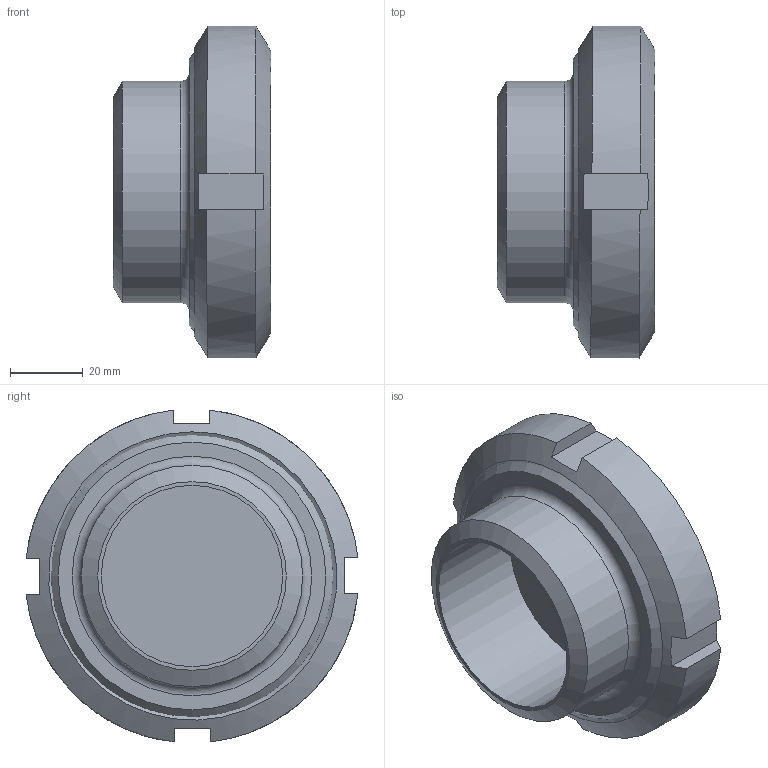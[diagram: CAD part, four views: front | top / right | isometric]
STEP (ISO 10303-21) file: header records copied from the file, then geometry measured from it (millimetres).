
FILE_DESCRIPTION(/* description */ ('Unknown'),/* implementation_level */ '2;1');
FILE_NAME(/* name */ 'MV 50',/* time_stamp */ '2016-01-18T15:21:00+01:00',/* author */ ('Unknown'),/* organization */ ('Unknown'),/* preprocessor_version */ 'ST-DEVELOPER v16.7',/* originating_system */ 'DEX',/* authorisation */ $);
FILE_SCHEMA (('CONFIG_CONTROL_DESIGN'));
Length unit declared in the file: millimetre
Products named in the file (6): 0207.005.38_01; 0863.230.38_01; 4019.022.38_01; 1775.182.38; 5684.027.38_01; 8412.020.38_01
Assembly tree (5 placements, depth 2):
  0207.005.38_01
    0863.230.38_01
    4019.022.38_01
    1775.182.38
    5684.027.38_01
    8412.020.38_01
Bounding box: 43.5 x 91.47 x 91.47 mm (x, y, z)
Volume: 123380.2 mm3; surface area: 54248.1 mm2
Topology: 5 solids, 5 shells, 55 faces, 118 edges, 76 vertices
Faces by surface type: plane 25, cylinder 17, cone 10, torus 3
Full cylindrical faces by diameter (mm): 50 x3, 53 x1, 54 x1, 61 x1, 63 x1, 64 x2, 74 x1, 74.19 x1, 78 x1, 78.423 x1
Entity records: 3811 total; most frequent: CARTESIAN_POINT 2607, DIRECTION 210, ORIENTED_EDGE 170, AXIS2_PLACEMENT_3D 97, EDGE_LOOP 92, FACE_BOUND 92, EDGE_CURVE 85, VERTEX_POINT 69
